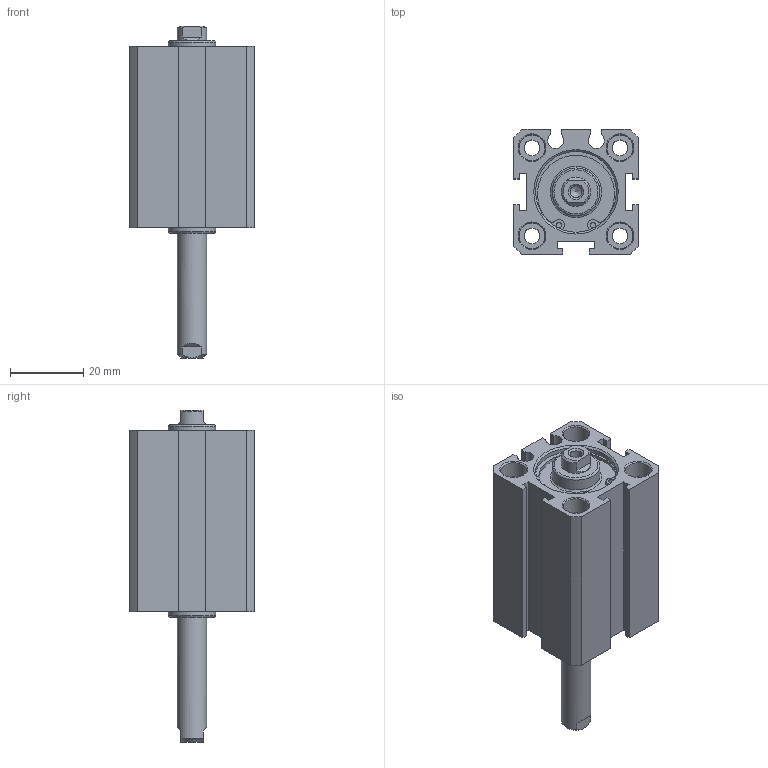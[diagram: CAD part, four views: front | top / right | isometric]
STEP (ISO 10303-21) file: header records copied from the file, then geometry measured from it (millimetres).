
FILE_DESCRIPTION((''),'2;1');
FILE_NAME('I:\3D電子目錄\氣缸\JDD\JDD\JDD20\JDD20x30.stp','2007-02-08T09:02:20',('662F206'),(''),'Autodesk Inventor 10','Autodesk Inventor 10','');
FILE_SCHEMA(('AUTOMOTIVE_DESIGN { 1 0 10303 214 1 1 1 1 }'));
Length unit declared in the file: millimetre
Products named in the file (3): JDD20; R 形環 23
Assembly tree (3 placements, depth 2):
  JDD20
    JDD20
    R 形環 23  x2
Bounding box: 34 x 34 x 90.5 mm (x, y, z)
Volume: 47121.9 mm3; surface area: 17295.4 mm2
Topology: 3 solids, 3 shells, 149 faces, 346 edges, 225 vertices
Faces by surface type: plane 70, cylinder 47, cone 18, bspline 12, torus 2
Full cylindrical faces by diameter (mm): 1.5 x6, 4.3 x4, 7 x8, 8 x1, 13 x2, 22 x4, 23.2 x2
Entity records: 3819 total; most frequent: CARTESIAN_POINT 813, DIRECTION 626, ORIENTED_EDGE 514, EDGE_CURVE 257, AXIS2_PLACEMENT_3D 246, EDGE_LOOP 220, VERTEX_POINT 195, FACE_OUTER_BOUND 137
